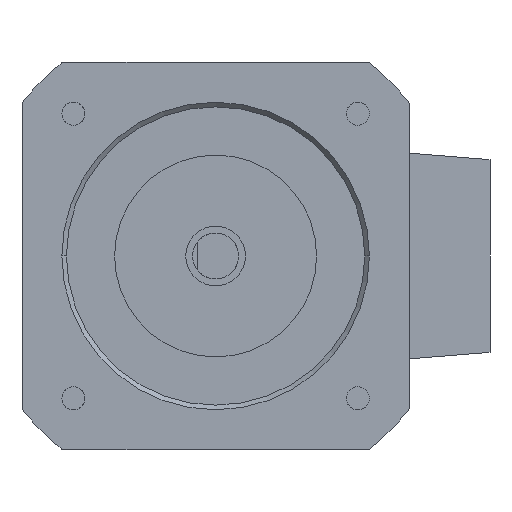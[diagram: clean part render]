
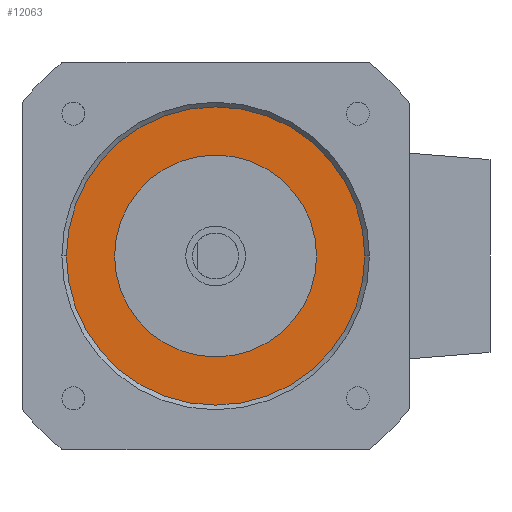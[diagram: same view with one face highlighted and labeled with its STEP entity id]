
A CAD part, front view. The second image highlights one B-rep face of the part: STEP entity #12063.
In plain terms, the highlighted planar face has unit normal (0, -1, 0).
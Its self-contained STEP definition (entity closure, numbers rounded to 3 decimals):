
#172 = DIRECTION ( 'NONE',  ( 0., 0., -1. ) ) ;
#831 = CIRCLE ( 'NONE', #2376, 11. ) ;
#1605 = DIRECTION ( 'NONE',  ( 0., -1., 0. ) ) ;
#1700 = CARTESIAN_POINT ( 'NONE',  ( 0., 2., 0. ) ) ;
#2132 = CIRCLE ( 'NONE', #16958, 16.25 ) ;
#2376 = AXIS2_PLACEMENT_3D ( 'NONE', #5261, #14154, #8330 ) ;
#3457 = CIRCLE ( 'NONE', #7743, 16.25 ) ;
#4514 = EDGE_LOOP ( 'NONE', ( #5524, #7959 ) ) ;
#5261 = CARTESIAN_POINT ( 'NONE',  ( 0., 2., 0. ) ) ;
#5524 = ORIENTED_EDGE ( 'NONE', *, *, #7646, .T. ) ;
#5699 = PLANE ( 'NONE',  #11942 ) ;
#5888 = CARTESIAN_POINT ( 'NONE',  ( 0., 2., 0. ) ) ;
#7294 = VERTEX_POINT ( 'NONE', #10120 ) ;
#7646 = EDGE_CURVE ( 'NONE', #8854, #7294, #3457, .T. ) ;
#7743 = AXIS2_PLACEMENT_3D ( 'NONE', #17551, #8441, #18805 ) ;
#7904 = CARTESIAN_POINT ( 'NONE',  ( 0., 2., 0. ) ) ;
#7959 = ORIENTED_EDGE ( 'NONE', *, *, #14023, .T. ) ;
#8330 = DIRECTION ( 'NONE',  ( 0., 0., -1. ) ) ;
#8441 = DIRECTION ( 'NONE',  ( 0., -1., 0. ) ) ;
#8854 = VERTEX_POINT ( 'NONE', #16932 ) ;
#10022 = CARTESIAN_POINT ( 'NONE',  ( 0., 2., -11. ) ) ;
#10120 = CARTESIAN_POINT ( 'NONE',  ( 0., 2., 16.25 ) ) ;
#11507 = FACE_OUTER_BOUND ( 'NONE', #4514, .T. ) ;
#11519 = EDGE_CURVE ( 'NONE', #17990, #12583, #831, .T. ) ;
#11610 = DIRECTION ( 'NONE',  ( 0., -1., 0. ) ) ;
#11942 = AXIS2_PLACEMENT_3D ( 'NONE', #5888, #11610, #17696 ) ;
#12063 = ADVANCED_FACE ( 'NONE', ( #11507, #16242 ), #5699, .T. ) ;
#12509 = EDGE_LOOP ( 'NONE', ( #13345, #12737 ) ) ;
#12583 = VERTEX_POINT ( 'NONE', #10022 ) ;
#12734 = AXIS2_PLACEMENT_3D ( 'NONE', #7904, #13825, #17991 ) ;
#12737 = ORIENTED_EDGE ( 'NONE', *, *, #11519, .F. ) ;
#13345 = ORIENTED_EDGE ( 'NONE', *, *, #16507, .F. ) ;
#13825 = DIRECTION ( 'NONE',  ( 0., -1., 0. ) ) ;
#14023 = EDGE_CURVE ( 'NONE', #7294, #8854, #2132, .T. ) ;
#14154 = DIRECTION ( 'NONE',  ( 0., -1., 0. ) ) ;
#16242 = FACE_BOUND ( 'NONE', #12509, .T. ) ;
#16507 = EDGE_CURVE ( 'NONE', #12583, #17990, #17049, .T. ) ;
#16932 = CARTESIAN_POINT ( 'NONE',  ( 0., 2., -16.25 ) ) ;
#16958 = AXIS2_PLACEMENT_3D ( 'NONE', #1700, #1605, #172 ) ;
#17049 = CIRCLE ( 'NONE', #12734, 11. ) ;
#17551 = CARTESIAN_POINT ( 'NONE',  ( 0., 2., 0. ) ) ;
#17696 = DIRECTION ( 'NONE',  ( 0., 0., -1. ) ) ;
#17990 = VERTEX_POINT ( 'NONE', #18744 ) ;
#17991 = DIRECTION ( 'NONE',  ( 0., 0., -1. ) ) ;
#18744 = CARTESIAN_POINT ( 'NONE',  ( 0., 2., 11. ) ) ;
#18805 = DIRECTION ( 'NONE',  ( 0., 0., -1. ) ) ;
